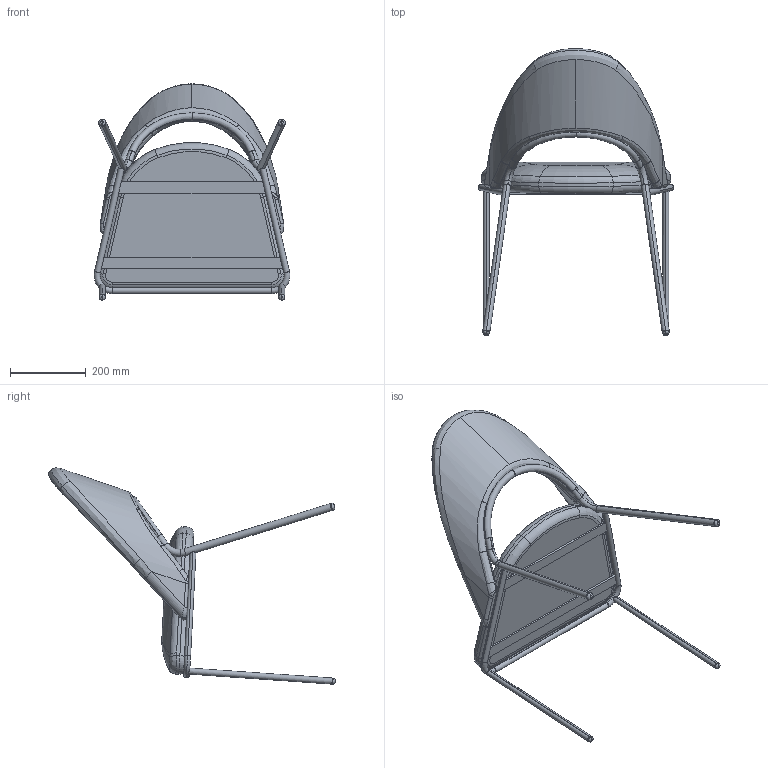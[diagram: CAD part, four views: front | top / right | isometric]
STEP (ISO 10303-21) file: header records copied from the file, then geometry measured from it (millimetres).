
FILE_DESCRIPTION (( 'STEP AP203' ), '1' );
FILE_NAME ('BERNA 001.STEP', '2022-09-22T10:42:47', ( '' ), ( '' ), 'SwSTEP 2.0', 'SolidWorks 2021', '' );
FILE_SCHEMA (( 'CONFIG_CONTROL_DESIGN' ));
Length unit declared in the file: millimetre
Products named in the file (1): BERNA 001
Bounding box: 516.95 x 755.89 x 570.81 mm (x, y, z)
Volume: 14928721.4 mm3; surface area: 1053106 mm2
Topology: 11 solids, 11 shells, 242 faces, 595 edges, 367 vertices
Faces by surface type: bspline 81, cylinder 74, torus 52, plane 35
Entity records: 18720 total; most frequent: CARTESIAN_POINT 13530, ORIENTED_EDGE 1186, DIRECTION 933, EDGE_CURVE 593, AXIS2_PLACEMENT_3D 409, VERTEX_POINT 367, CIRCLE 247, EDGE_LOOP 246
